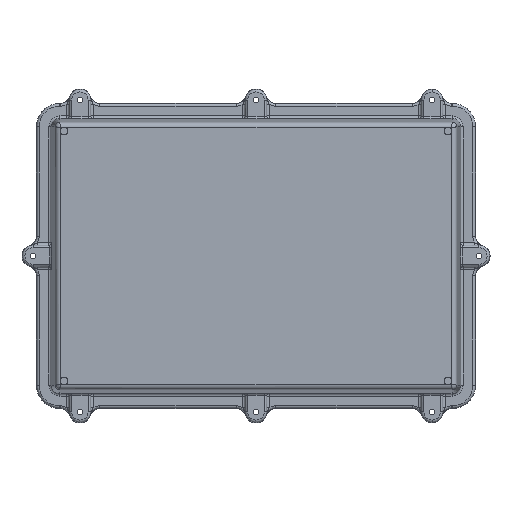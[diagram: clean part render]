
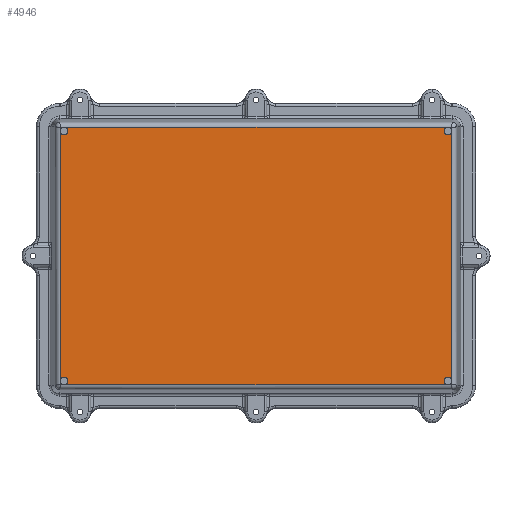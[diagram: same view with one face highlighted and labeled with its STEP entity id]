
A CAD part, front view. The second image highlights one B-rep face of the part: STEP entity #4946.
In plain terms, the highlighted planar face has unit normal (0, -1, 0).
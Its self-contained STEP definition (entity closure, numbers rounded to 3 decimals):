
#17 = EDGE_CURVE ( 'NONE', #21739, #5820, #13506, .T. ) ;
#502 = ORIENTED_EDGE ( 'NONE', *, *, #19129, .F. ) ;
#868 = DIRECTION ( 'NONE',  ( 0., 0., -1. ) ) ;
#1680 = EDGE_CURVE ( 'NONE', #6234, #31330, #13486, .T. ) ;
#1724 = DIRECTION ( 'NONE',  ( 0., 0., 1. ) ) ;
#2342 = EDGE_CURVE ( 'NONE', #16936, #22952, #24133, .T. ) ;
#2360 = CIRCLE ( 'NONE', #8088, 2.3 ) ;
#2425 = CARTESIAN_POINT ( 'NONE',  ( 114.5, -75., -74.5 ) ) ;
#2733 = ORIENTED_EDGE ( 'NONE', *, *, #11842, .F. ) ;
#3010 = CARTESIAN_POINT ( 'NONE',  ( -117., -75., 77. ) ) ;
#3124 = FACE_OUTER_BOUND ( 'NONE', #11267, .T. ) ;
#3194 = CARTESIAN_POINT ( 'NONE',  ( -114.5, -75., 74.5 ) ) ;
#3515 = DIRECTION ( 'NONE',  ( 0., 0., -1. ) ) ;
#4255 = VERTEX_POINT ( 'NONE', #12667 ) ;
#4526 = CARTESIAN_POINT ( 'NONE',  ( -116.734, -75., -73.952 ) ) ;
#4585 = EDGE_CURVE ( 'NONE', #5820, #12814, #23259, .T. ) ;
#4832 = CARTESIAN_POINT ( 'NONE',  ( -114.5, -75., 72.2 ) ) ;
#4848 = AXIS2_PLACEMENT_3D ( 'NONE', #2425, #28953, #19337 ) ;
#4946 = ADVANCED_FACE ( 'NONE', ( #3124 ), #12607, .T. ) ;
#5243 = CIRCLE ( 'NONE', #13244, 2.3 ) ;
#5513 = CARTESIAN_POINT ( 'NONE',  ( -117., -75., 76.734 ) ) ;
#5820 = VERTEX_POINT ( 'NONE', #21419 ) ;
#6063 = DIRECTION ( 'NONE',  ( 0., 0., -1. ) ) ;
#6234 = VERTEX_POINT ( 'NONE', #4832 ) ;
#6442 = EDGE_CURVE ( 'NONE', #9641, #6234, #2360, .T. ) ;
#6816 = CIRCLE ( 'NONE', #4848, 2.3 ) ;
#6986 = CARTESIAN_POINT ( 'NONE',  ( 116.734, -75., 73.952 ) ) ;
#7479 = DIRECTION ( 'NONE',  ( 0., 0., 1. ) ) ;
#7643 = CARTESIAN_POINT ( 'NONE',  ( -116.734, -75., 73.952 ) ) ;
#7751 = VERTEX_POINT ( 'NONE', #4526 ) ;
#7861 = AXIS2_PLACEMENT_3D ( 'NONE', #3010, #27321, #8006 ) ;
#8006 = DIRECTION ( 'NONE',  ( 0., 0., -1. ) ) ;
#8088 = AXIS2_PLACEMENT_3D ( 'NONE', #3194, #15565, #3515 ) ;
#8121 = DIRECTION ( 'NONE',  ( 1., 0., 0. ) ) ;
#8375 = CARTESIAN_POINT ( 'NONE',  ( 114.5, -75., -74.5 ) ) ;
#8379 = ORIENTED_EDGE ( 'NONE', *, *, #17, .F. ) ;
#8402 = DIRECTION ( 'NONE',  ( 0., -1., 0. ) ) ;
#9007 = CARTESIAN_POINT ( 'NONE',  ( -114.5, -75., -74.5 ) ) ;
#9406 = AXIS2_PLACEMENT_3D ( 'NONE', #13227, #8402, #20999 ) ;
#9641 = VERTEX_POINT ( 'NONE', #7643 ) ;
#9648 = ORIENTED_EDGE ( 'NONE', *, *, #2342, .F. ) ;
#9723 = CARTESIAN_POINT ( 'NONE',  ( 114.5, -75., -72.2 ) ) ;
#9741 = ORIENTED_EDGE ( 'NONE', *, *, #4585, .F. ) ;
#10118 = VERTEX_POINT ( 'NONE', #9723 ) ;
#10546 = CARTESIAN_POINT ( 'NONE',  ( 113.952, -75., 76.734 ) ) ;
#10791 = DIRECTION ( 'NONE',  ( 0., -1., 0. ) ) ;
#11267 = EDGE_LOOP ( 'NONE', ( #9648, #25960, #2733, #17980, #24705, #9741, #8379, #24467, #31216, #21169, #16513, #502 ) ) ;
#11612 = EDGE_CURVE ( 'NONE', #9641, #7751, #25303, .T. ) ;
#11624 = LINE ( 'NONE', #26491, #13135 ) ;
#11842 = EDGE_CURVE ( 'NONE', #10118, #26541, #6816, .T. ) ;
#12407 = VECTOR ( 'NONE', #6063, 1000. ) ;
#12607 = PLANE ( 'NONE',  #7861 ) ;
#12667 = CARTESIAN_POINT ( 'NONE',  ( 116.734, -75., -73.952 ) ) ;
#12814 = VERTEX_POINT ( 'NONE', #6986 ) ;
#12963 = DIRECTION ( 'NONE',  ( -1., 0., 0. ) ) ;
#13135 = VECTOR ( 'NONE', #7479, 1000. ) ;
#13227 = CARTESIAN_POINT ( 'NONE',  ( -114.5, -75., 74.5 ) ) ;
#13244 = AXIS2_PLACEMENT_3D ( 'NONE', #9007, #13925, #23598 ) ;
#13412 = EDGE_CURVE ( 'NONE', #16936, #26541, #28680, .T. ) ;
#13486 = CIRCLE ( 'NONE', #9406, 2.3 ) ;
#13506 = CIRCLE ( 'NONE', #28029, 2.3 ) ;
#13600 = EDGE_CURVE ( 'NONE', #4255, #12814, #11624, .T. ) ;
#13925 = DIRECTION ( 'NONE',  ( 0., -1., 0. ) ) ;
#14440 = AXIS2_PLACEMENT_3D ( 'NONE', #18025, #10791, #27748 ) ;
#15522 = AXIS2_PLACEMENT_3D ( 'NONE', #19975, #17305, #17101 ) ;
#15565 = DIRECTION ( 'NONE',  ( 0., -1., 0. ) ) ;
#16179 = DIRECTION ( 'NONE',  ( 0., -1., 0. ) ) ;
#16513 = ORIENTED_EDGE ( 'NONE', *, *, #11612, .T. ) ;
#16936 = VERTEX_POINT ( 'NONE', #18714 ) ;
#17101 = DIRECTION ( 'NONE',  ( 0., 0., 1. ) ) ;
#17305 = DIRECTION ( 'NONE',  ( 0., -1., 0. ) ) ;
#17980 = ORIENTED_EDGE ( 'NONE', *, *, #24555, .F. ) ;
#18025 = CARTESIAN_POINT ( 'NONE',  ( -114.5, -75., -74.5 ) ) ;
#18714 = CARTESIAN_POINT ( 'NONE',  ( -113.952, -75., -76.734 ) ) ;
#19129 = EDGE_CURVE ( 'NONE', #22952, #7751, #5243, .T. ) ;
#19265 = VECTOR ( 'NONE', #12963, 1000. ) ;
#19322 = CARTESIAN_POINT ( 'NONE',  ( -113.952, -75., 76.734 ) ) ;
#19337 = DIRECTION ( 'NONE',  ( 0., 0., -1. ) ) ;
#19975 = CARTESIAN_POINT ( 'NONE',  ( 114.5, -75., 74.5 ) ) ;
#20192 = CARTESIAN_POINT ( 'NONE',  ( 117., -75., -76.734 ) ) ;
#20999 = DIRECTION ( 'NONE',  ( 0., 0., -1. ) ) ;
#21169 = ORIENTED_EDGE ( 'NONE', *, *, #6442, .F. ) ;
#21419 = CARTESIAN_POINT ( 'NONE',  ( 114.5, -75., 72.2 ) ) ;
#21739 = VERTEX_POINT ( 'NONE', #10546 ) ;
#21832 = CARTESIAN_POINT ( 'NONE',  ( -114.5, -75., -72.2 ) ) ;
#22251 = VECTOR ( 'NONE', #8121, 1000. ) ;
#22952 = VERTEX_POINT ( 'NONE', #21832 ) ;
#22961 = CARTESIAN_POINT ( 'NONE',  ( -116.734, -75., -77. ) ) ;
#23259 = CIRCLE ( 'NONE', #15522, 2.3 ) ;
#23598 = DIRECTION ( 'NONE',  ( 0., 0., 1. ) ) ;
#24133 = CIRCLE ( 'NONE', #14440, 2.3 ) ;
#24467 = ORIENTED_EDGE ( 'NONE', *, *, #29714, .T. ) ;
#24555 = EDGE_CURVE ( 'NONE', #4255, #10118, #24677, .T. ) ;
#24623 = CARTESIAN_POINT ( 'NONE',  ( 113.952, -75., -76.734 ) ) ;
#24677 = CIRCLE ( 'NONE', #30840, 2.3 ) ;
#24705 = ORIENTED_EDGE ( 'NONE', *, *, #13600, .T. ) ;
#25165 = DIRECTION ( 'NONE',  ( 0., -1., 0. ) ) ;
#25303 = LINE ( 'NONE', #22961, #12407 ) ;
#25960 = ORIENTED_EDGE ( 'NONE', *, *, #13412, .T. ) ;
#26491 = CARTESIAN_POINT ( 'NONE',  ( 116.734, -75., 77. ) ) ;
#26541 = VERTEX_POINT ( 'NONE', #24623 ) ;
#27321 = DIRECTION ( 'NONE',  ( 0., -1., 0. ) ) ;
#27748 = DIRECTION ( 'NONE',  ( 0., 0., 1. ) ) ;
#28029 = AXIS2_PLACEMENT_3D ( 'NONE', #30672, #16179, #1724 ) ;
#28680 = LINE ( 'NONE', #20192, #22251 ) ;
#28953 = DIRECTION ( 'NONE',  ( 0., -1., 0. ) ) ;
#29714 = EDGE_CURVE ( 'NONE', #21739, #31330, #31350, .T. ) ;
#30672 = CARTESIAN_POINT ( 'NONE',  ( 114.5, -75., 74.5 ) ) ;
#30840 = AXIS2_PLACEMENT_3D ( 'NONE', #8375, #25165, #868 ) ;
#31216 = ORIENTED_EDGE ( 'NONE', *, *, #1680, .F. ) ;
#31330 = VERTEX_POINT ( 'NONE', #19322 ) ;
#31350 = LINE ( 'NONE', #5513, #19265 ) ;
